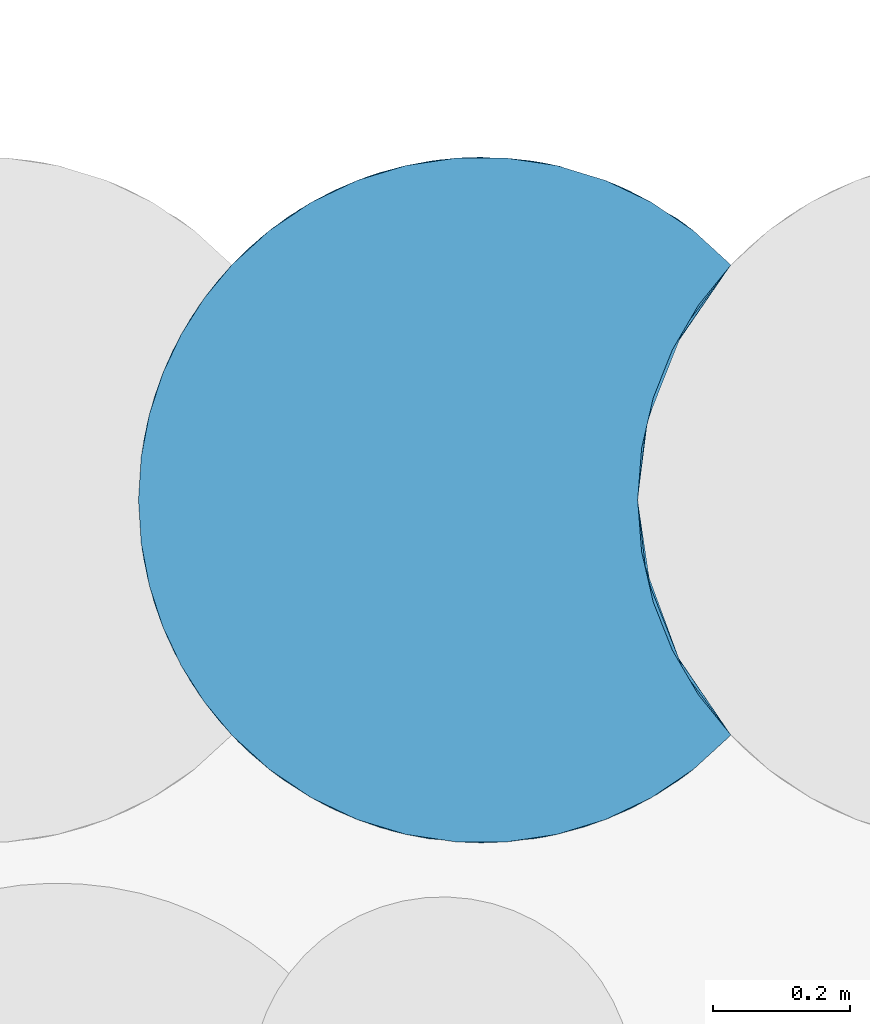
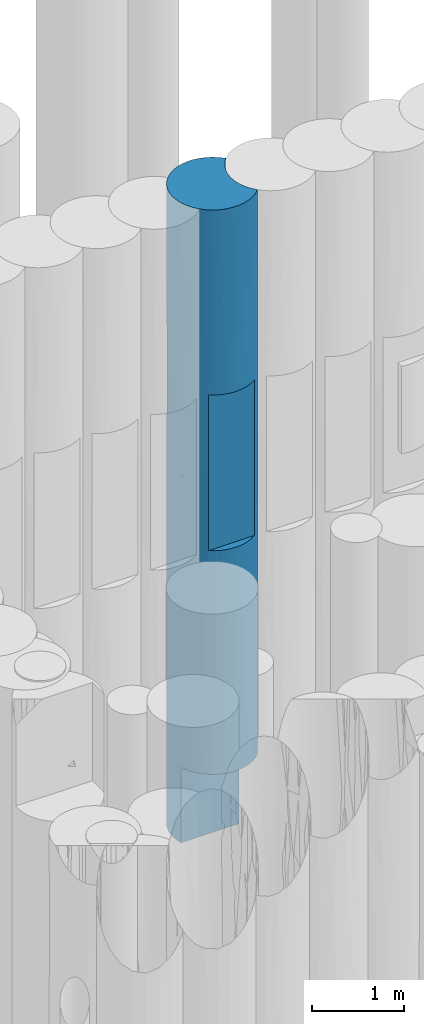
# One storey, part 63 of 104: 1 pile.
"""IFC2X3 building model written with IfcOpenShell, lengths in millimetres."""

from ifc_helpers import new_model, entity, si_unit, converted_unit, derived_unit, direction, frame, origin, place, context, subcontext, project, spatial, faceted_brep, source, transform, mapped, material, element, save


model = new_model("IFC2X3")

# Units and contexts
model_context = context("Model", 3, precision=0.01, world=origin(), true_north=direction((6.12303176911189e-17, 1.0)))
body_context = subcontext(model_context, "Body", "Model", "MODEL_VIEW")
ifc_project = project(units=[si_unit("LENGTHUNIT", "METRE", prefix="MILLI"), si_unit("AREAUNIT", "SQUARE_METRE", prefix="MILLI"), si_unit("VOLUMEUNIT", "CUBIC_METRE"), converted_unit("PLANEANGLEUNIT", "DEGREE", entity("IfcRatioMeasure", 0.0174532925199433), si_unit("PLANEANGLEUNIT", "RADIAN"), dimensions=[0, 0, 0, 0, 0, 0, 0]), si_unit("MASSUNIT", "GRAM", prefix="KILO"), derived_unit("MASSDENSITYUNIT", [(si_unit("MASSUNIT", "GRAM", prefix="KILO"), 1), (si_unit("LENGTHUNIT", "METRE"), -3)]), derived_unit("MOMENTOFINERTIAUNIT", [(si_unit("LENGTHUNIT", "METRE"), 4)]), si_unit("TIMEUNIT", "SECOND"), si_unit("FREQUENCYUNIT", "HERTZ"), si_unit("THERMODYNAMICTEMPERATUREUNIT", "DEGREE_CELSIUS"), derived_unit("THERMALTRANSMITTANCEUNIT", [(si_unit("MASSUNIT", "GRAM", prefix="KILO"), 1), (si_unit("THERMODYNAMICTEMPERATUREUNIT", "KELVIN"), -1), (si_unit("TIMEUNIT", "SECOND"), -3)]), derived_unit("VOLUMETRICFLOWRATEUNIT", [(si_unit("LENGTHUNIT", "METRE"), 3), (si_unit("TIMEUNIT", "SECOND"), -1)]), si_unit("ELECTRICCURRENTUNIT", "AMPERE"), si_unit("ELECTRICVOLTAGEUNIT", "VOLT"), si_unit("POWERUNIT", "WATT"), si_unit("FORCEUNIT", "NEWTON", prefix="KILO"), si_unit("ILLUMINANCEUNIT", "LUX"), si_unit("LUMINOUSFLUXUNIT", "LUMEN"), si_unit("LUMINOUSINTENSITYUNIT", "CANDELA"), derived_unit("USERDEFINED", [(si_unit("MASSUNIT", "GRAM", prefix="KILO"), -1), (si_unit("LENGTHUNIT", "METRE"), -2), (si_unit("TIMEUNIT", "SECOND"), 3), (si_unit("LUMINOUSFLUXUNIT", "LUMEN"), 1)]), derived_unit("LINEARVELOCITYUNIT", [(si_unit("LENGTHUNIT", "METRE"), 1), (si_unit("TIMEUNIT", "SECOND"), -1)]), si_unit("PRESSUREUNIT", "PASCAL"), derived_unit("USERDEFINED", [(si_unit("LENGTHUNIT", "METRE"), -2), (si_unit("MASSUNIT", "GRAM", prefix="KILO"), 1), (si_unit("TIMEUNIT", "SECOND"), -2)]), derived_unit("LINEARFORCEUNIT", [(si_unit("MASSUNIT", "GRAM", prefix="KILO"), 1), (si_unit("LENGTHUNIT", "METRE"), 1), (si_unit("TIMEUNIT", "SECOND"), -2), (si_unit("LENGTHUNIT", "METRE"), -1)]), derived_unit("PLANARFORCEUNIT", [(si_unit("MASSUNIT", "GRAM", prefix="KILO"), 1), (si_unit("LENGTHUNIT", "METRE"), 1), (si_unit("TIMEUNIT", "SECOND"), -2), (si_unit("LENGTHUNIT", "METRE"), -2)])], contexts=[model_context])

# Site, building, storey
site_placement = place(None, origin())
site = spatial("IfcSite", under=ifc_project, at=site_placement, Name="Theater aan de Parade", CompositionType="ELEMENT")
building_placement = place(site_placement, origin())
building = spatial("IfcBuilding", under=site, at=building_placement, Name="Theater aan de Parade", CompositionType="ELEMENT")
storey_placement = place(building_placement, frame((0.0, 0.0, -5520.0)))
storey = spatial("IfcBuildingStorey", under=building, at=storey_placement, Name="-2 kelder", CompositionType="ELEMENT", Elevation=-5520.0)

# Pile
ifc_material = material(Name="00_PBT_MAT_grout")
shared_shape = source(origin(), body_context, "Body", "Brep", [
    faceted_brep([(464.560582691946, 1000.22181762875, 0.0), (538.616668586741, 1000.22280478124, 0.0), (611.860911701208, 989.28522369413, 0.0), (682.686734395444, 967.648790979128, 0.0), (749.540520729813, 935.787802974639, 0.0), (810.955686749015, 894.400737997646, 0.0), (865.59527223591, 844.38383680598, 0.0), (818.150067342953, 785.695330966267, 0.0), (780.078223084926, 720.53458465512, 0.0), (752.247075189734, 650.386060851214, 0.0), (735.290660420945, 576.847851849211, 0.0), (729.595272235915, 501.595272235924, 0.0), (734.989632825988, 428.347327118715, 0.0), (751.055970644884, 356.681032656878, 0.0), (23.0559706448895, 356.681032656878, 0.0), (6.98989759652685, 428.345539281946, 0.0), (1.5952722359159, 501.595272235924, 0.0), (5.55623942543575, 564.406719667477, 0.0), (17.3678310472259, 626.189755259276, 0.0), (36.8430214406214, 686.00065551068, 0.0), (63.6725852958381, 742.891190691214, 0.0), (97.4346759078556, 795.966147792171, 0.0), (137.595794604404, 844.383899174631, 0.0), (192.227350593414, 894.394825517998, 0.0), (253.640398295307, 935.782306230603, 0.0), (320.492432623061, 967.644369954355, 0.0), (391.316996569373, 989.282366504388, 0.0), (865.59527223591, 844.38383680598, 1561.53755047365), (789.401321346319, 910.456713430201, 1491.00548248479), (799.657477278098, 903.041310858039, 2504.88210618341), (26.1639417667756, 656.401764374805, 1423.71039154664), (50.5548382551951, 717.378790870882, 815.522482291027), (716.704326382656, 952.957759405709, 974.74374939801), (575.441567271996, 996.111929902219, 1365.35911550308), (789.401320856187, 910.456713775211, 6978.9945110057), (810.955686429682, 894.40073824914, 8470.0), (865.59527223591, 844.38383680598, 6908.46244952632), (790.879670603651, 909.412065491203, 5813.01191791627), (865.59527223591, 844.38383680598, 5571.72989618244), (865.595272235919, 844.38383680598, 5346.92489905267), (538.616668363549, 1000.22280479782, 8470.0), (611.860911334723, 989.285223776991, 8470.0), (575.441567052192, 996.111929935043, 7150.26699538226), (36.7297114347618, 685.714826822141, 2307.62641859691), (64.0996250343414, 743.664598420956, 1628.37591838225), (222.166559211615, 916.227150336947, 956.748364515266), (355.503556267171, 979.776420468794, 1427.1685869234), (501.588606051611, 1001.59527219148, 2596.73325583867), (463.496981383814, 1000.14167953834, 1072.24580175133), (865.595272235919, 844.38383680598, 8470.0), (222.16655893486, 916.227150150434, 1972.30012717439), (217.544033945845, 913.074183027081, 3221.63866937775), (333.161300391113, 972.371224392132, 2861.22474137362), (286.475705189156, 952.952749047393, 7480.63704182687), (192.227350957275, 894.394825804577, 8470.0), (253.640398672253, 935.782306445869, 8470.0), (100.736484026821, 800.44679375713, 6793.03274327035), (163.989554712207, 870.407391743, 7127.47212773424), (196.918801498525, 898.044825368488, 6218.94986965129), (785.426204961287, 913.226176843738, 4790.96227754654), (79.7575221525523, 770.022008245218, 7621.93766369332), (63.6725852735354, 742.89119065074, 8470.0), (97.4346759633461, 795.966147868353, 8470.0), (692.579720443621, 963.682861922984, 4235.0), (794.511313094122, 906.811502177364, 3679.03770634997), (116.757578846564, 820.812987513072, 1364.08942331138), (716.704325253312, 952.957759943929, 6462.73277506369), (716.704325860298, 952.957759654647, 7495.25624707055), (716.704325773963, 952.957759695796, 2007.26721703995), (36.8430215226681, 686.000655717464, 8470.0), (464.560582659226, 1000.22181762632, 8470.0), (682.686733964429, 967.648791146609, 8470.0), (749.540520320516, 935.787803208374, 8470.0), (1.5952722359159, 501.595272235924, 1058.74569867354), (1.59527223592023, 501.595272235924, 1561.53750746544), (286.475704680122, 952.952748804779, 4235.0), (286.475704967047, 952.952748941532, 6434.30301971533), (236.846141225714, 925.750783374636, 5334.65151001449), (13.5254225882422, 610.167008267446, 7372.75274235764), (17.3678311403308, 626.189755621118, 8470.0), (150.377453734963, 857.468907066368, 2562.89631213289), (79.7181549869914, 769.960131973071, 2632.86902156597), (49.3623188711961, 714.868233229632, 6938.44019104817), (712.525517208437, 954.925650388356, 3129.7229792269), (501.588606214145, 1001.59527219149, 5873.2667373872), (569.755285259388, 996.927698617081, 4755.12996065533), (476.322275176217, 1000.95613936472, 5007.14730889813), (391.31699672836, 989.282366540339, 8470.0), (427.735977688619, 996.109988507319, 7104.64110728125), (9.23358182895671, 588.658271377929, 2342.30656064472), (116.757578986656, 820.812987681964, 5893.90174013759), (33.0262183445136, 676.074616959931, 5347.10350774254), (137.605579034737, 844.394781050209, 8470.0), (438.381630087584, 997.583211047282, 3963.78240309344), (320.492432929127, 967.644370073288, 8470.0), (43.0784257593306, 701.000140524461, 4473.88274990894), (11.2142039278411, 599.19859105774, 4667.6580334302), (1.5952722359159, 501.595272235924, 8470.0), (5.5562394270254, 564.406719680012, 8470.0), (9.51542927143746, 590.237407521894, 5495.65544289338), (116.185815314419, 820.122430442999, 3373.18426703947), (182.118134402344, 886.217630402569, 4288.45203817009), (591.824887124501, 993.386504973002, 3489.10403538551), (18.4305593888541, 630.249305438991, 6406.00282362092), (1.5952722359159, 501.595272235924, 2117.50286755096), (1.5952722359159, 501.595272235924, 3123.07501493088), (616.099631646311, 988.30745790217, 2440.5331714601), (386.192771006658, 988.095285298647, 6175.64873710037), (381.51979902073, 986.963051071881, 5169.51578005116), (613.759023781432, 988.852178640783, 6106.01087867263), (692.700363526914, 963.6329807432, 5361.9474727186), (75.4806634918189, 763.179561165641, 5112.43896971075), (135.725798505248, 842.387772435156, 5005.62909266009), (62.9697281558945, 741.611171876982, 3455.7117920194), (97.3058699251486, 795.789220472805, 4263.74923889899), (26.3526093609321, 656.979992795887, 3676.2932543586), (1.5952722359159, 501.595272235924, 3176.26003642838), (1.5952722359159, 501.595272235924, 4234.99353122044), (865.595272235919, 844.38383680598, 3123.07579226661), (865.595272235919, 844.38383680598, 2898.26629172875), (865.595272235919, 844.38383680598, 4235.0006913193), (1.5952722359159, 501.595272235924, 5346.92498506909), (1.5952722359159, 501.595272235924, 5571.74329494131), (1.5952722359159, 501.595272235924, 6908.46249253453), (9.64635078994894, 412.229402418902, 1740.22189428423), (142.565506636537, 153.604428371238, 5505.0), (213.720794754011, 92.7820077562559, 4990.0), (213.720794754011, 92.7820077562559, 6020.0), (105.373424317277, 196.6227370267, 4545.3992964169), (23.0559706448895, 356.681032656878, 1000.0), (118.439637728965, 180.360529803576, 2386.19848820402), (32.2090199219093, 329.326452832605, 2204.61529178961), (68.8651327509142, 251.106497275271, 1000.0), (42.9242829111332, 302.545219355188, 1000.0), (789.469749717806, 92.7820077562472, 3960.0), (865.59527223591, 158.806707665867, 2867.49999999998), (865.59527223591, 158.806707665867, 3648.28895539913), (865.595272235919, 158.806707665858, 3801.24999999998), (865.595272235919, 158.806707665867, 4735.0), (865.595272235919, 158.806707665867, 5668.74999999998), (865.59527223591, 158.806707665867, 5821.74150431), (865.595272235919, 158.806707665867, 6602.49999999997), (789.469749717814, 92.7820077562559, 6020.0), (789.469749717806, 92.7820077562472, 4990.0), (8.81751859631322, 416.918914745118, 2646.87500001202), (286.466151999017, 50.2423486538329, 2461.24897887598), (193.922353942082, 107.466644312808, 2892.94714577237), (210.051202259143, 95.3908221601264, 1944.41924411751), (163.989554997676, 132.783152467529, 7198.38299068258), (79.7181554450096, 233.230411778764, 6604.44114999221), (148.072190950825, 148.011574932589, 6362.2552721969), (31.1680313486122, 332.189808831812, 6056.32490962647), (75.6904967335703, 239.66947701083, 5519.9956530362), (253.629698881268, 67.4143486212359, 1000.0), (320.484188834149, 35.5493780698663, 1000.0), (55.1532507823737, 276.451936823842, 3318.42122771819), (757.302459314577, 71.9281516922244, 3141.67756733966), (789.630291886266, 92.8951040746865, 2324.13442625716), (391.312227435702, 13.9092564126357, 1000.0), (370.182009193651, 19.1737197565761, 1947.89605695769), (279.558542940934, 53.6000815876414, 3960.0), (391.331294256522, 13.9049451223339, 2895.75417679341), (100.558387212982, 202.982786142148, 1000.0), (137.595272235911, 158.806707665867, 1000.0), (464.559880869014, 2.96877897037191, 1000.0), (501.589988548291, 1.59527226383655, 2460.40757830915), (29.932648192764, 335.660438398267, 4903.36557309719), (121.469006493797, 176.781445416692, 3478.13394910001), (26.1639420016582, 346.788779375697, 7201.0302868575), (5.5562394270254, 438.783824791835, 8470.0), (79.7181554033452, 233.230411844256, 7559.63491729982), (63.6725852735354, 260.299353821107, 8470.0), (36.8430215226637, 317.1898887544, 8470.0), (810.967462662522, 108.799081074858, 1000.0), (865.59527223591, 158.806707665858, 1000.0), (865.59527223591, 158.806707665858, 1780.76885310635), (17.3678311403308, 377.000788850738, 8470.0), (137.605579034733, 158.795763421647, 8470.0), (865.595272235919, 158.806707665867, 7689.2311468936), (865.595272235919, 158.806707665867, 8470.0), (810.955686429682, 108.789806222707, 8470.0), (253.008900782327, 67.7694823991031, 7429.16293872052), (279.558542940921, 53.6000815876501, 6020.0), (749.552165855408, 67.40939164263, 1000.0), (192.227350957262, 108.795718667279, 8470.0), (192.215508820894, 108.80504579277, 1000.0), (355.503557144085, 23.4141237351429, 7268.21560542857), (14.4149384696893, 389.099395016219, 3705.62500005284), (320.492432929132, 35.5461743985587, 8470.0), (391.316996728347, 13.9081779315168, 8470.0), (350.609564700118, 24.9367822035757, 6020.0), (501.595272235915, 1.59527223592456, 3960.0), (425.205629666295, 7.4651046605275, 3960.0), (538.620125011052, 2.96799633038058, 1000.0), (611.86810266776, 13.9069466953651, 1000.0), (595.054059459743, 10.4074720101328, 1977.18955440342), (682.696772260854, 35.5456539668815, 1000.0), (688.656307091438, 37.9055384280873, 2500.38408566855), (97.4346759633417, 207.224396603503, 8470.0), (682.68673396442, 35.5417533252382, 8470.0), (611.860911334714, 13.9053206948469, 8470.0), (611.870435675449, 13.9074742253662, 7434.83465826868), (595.68895776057, 10.5287000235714, 2967.02304747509), (577.984914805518, 7.4651046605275, 3960.0), (749.540520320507, 67.4027412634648, 8470.0), (716.704326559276, 50.2327851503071, 7267.64689878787), (803.386835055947, 102.945234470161, 7145.86557351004), (577.984914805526, 7.4651046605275, 6020.0), (501.58860727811, 1.5952722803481, 7268.66818084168), (501.595272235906, 1.59527223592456, 6020.0), (723.632001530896, 53.6000815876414, 6020.0), (865.59527223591, 158.806707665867, 2561.54745108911), (652.580979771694, 24.9367822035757, 3960.0), (723.632001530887, 53.6000815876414, 3960.0), (213.720794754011, 92.7820077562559, 3960.0), (253.640398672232, 67.4082380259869, 8470.0), (425.20562966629, 7.4651046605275, 6020.0), (464.560582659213, 2.96872684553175, 8470.0), (652.580979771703, 24.9367822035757, 6020.0), (538.61666836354, 2.96773967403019, 8470.0), (865.59527223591, 158.806707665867, 6908.48300862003), (350.609564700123, 24.9367822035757, 3960.0), (818.150067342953, 217.495213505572, 8470.0), (780.078223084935, 282.655959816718, 8470.0), (752.247075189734, 352.804483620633, 8470.0), (735.290660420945, 426.342692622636, 8470.0), (729.595272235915, 501.595272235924, 8470.0), (735.290660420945, 576.847851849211, 8470.0), (752.247075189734, 650.386060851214, 8470.0), (780.078223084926, 720.53458465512, 8470.0), (818.150067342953, 785.695330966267, 8470.0), (742.379444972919, 613.937328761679, 959.062888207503), (738.151011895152, 593.695972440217, 6638.44327873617), (742.379444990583, 613.937328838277, 7510.93711044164), (729.595272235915, 501.595272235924, 6908.4597613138), (808.6817168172, 771.468907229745, 6638.44327726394), (781.985001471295, 724.40695394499, 5169.28730842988), (797.88300515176, 753.834282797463, 959.062888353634), (764.837270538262, 685.986160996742, 1706.36651512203), (797.883005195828, 753.834282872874, 7510.93711014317), (729.595272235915, 501.595272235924, 1561.54023868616), (729.595272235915, 501.595272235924, 1058.75298998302), (808.681716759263, 771.468907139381, 1831.55672113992), (778.799150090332, 717.888721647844, 2630.65322090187), (766.296890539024, 689.62348691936, 3566.63442778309), (739.967026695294, 602.90756748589, 2500.19182196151), (729.595272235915, 501.595272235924, 3123.08047737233), (729.595272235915, 501.595272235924, 2117.50597996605), (764.837270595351, 685.986161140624, 6763.63348211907), (798.309538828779, 754.56289103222, 4260.62631723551), (810.907944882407, 774.909966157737, 3324.34692372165), (745.175048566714, 625.438103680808, 5612.66192558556), (744.930852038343, 624.478956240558, 4544.29323307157), (738.502483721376, 595.552033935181, 3413.30504808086), (729.595272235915, 501.595272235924, 4235.01242423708), (729.595272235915, 501.595272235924, 5571.72573206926), (729.595272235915, 501.595272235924, 5346.93194686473), (729.595272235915, 501.595272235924, 3176.24701001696), (737.652631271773, 412.194835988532, 1740.61215192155), (796.863622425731, 251.109106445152, 1977.49082641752), (808.103941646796, 232.6249053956, 2870.3140688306), (817.383474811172, 218.608639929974, 1000.0), (751.055970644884, 356.681032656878, 1000.0), (797.883005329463, 249.356261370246, 7510.9371107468), (762.458274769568, 323.317327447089, 4903.36557316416), (741.179889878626, 394.588663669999, 5988.20523574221), (778.685121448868, 285.53964070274, 5822.23176538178), (742.379445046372, 389.253215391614, 7510.9371105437), (764.837270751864, 317.204382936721, 6763.63348277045), (808.681717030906, 231.721636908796, 6638.44327929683), (736.645152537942, 417.928196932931, 2646.87500001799), (763.601591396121, 320.349887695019, 2739.7907128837), (778.90094510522, 285.089790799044, 1000.0), (736.819640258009, 416.906568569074, 5098.32805872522), (739.996017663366, 400.142968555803, 3705.62500000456), (776.673795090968, 289.788436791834, 3825.90126919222), (807.285378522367, 233.91196369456, 5061.9220930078)], [[[0, 1, 2, 3, 4, 5, 6, 7, 8, 9, 10, 11, 12, 13, 14, 15, 16, 17, 18, 19, 20, 21, 22, 23, 24, 25, 26]], [[27, 28, 29]], [[18, 30, 31]], [[4, 3, 32]], [[32, 2, 33]], [[34, 35, 36]], [[37, 36, 38, 39]], [[40, 41, 42]], [[30, 43, 44]], [[45, 46, 25]], [[47, 33, 48]], [[6, 5, 27]], [[35, 49, 36]], [[1, 48, 33]], [[26, 46, 48]], [[50, 51, 52]], [[53, 54, 55]], [[56, 57, 58]], [[39, 59, 37]], [[28, 5, 32]], [[60, 61, 62]], [[63, 59, 64]], [[25, 46, 26]], [[45, 22, 65]], [[24, 23, 45]], [[66, 67, 34]], [[28, 32, 68]], [[25, 24, 45]], [[69, 61, 60]], [[70, 40, 42]], [[67, 71, 72]], [[0, 48, 1]], [[42, 41, 67]], [[17, 16, 73, 74]], [[52, 51, 75]], [[58, 76, 77]], [[31, 21, 20]], [[69, 78, 79]], [[1, 33, 2]], [[65, 50, 45]], [[31, 19, 18]], [[80, 65, 81]], [[78, 69, 82]], [[64, 29, 83]], [[17, 74, 30]], [[84, 85, 86]], [[53, 87, 88]], [[30, 74, 89]], [[30, 18, 17]], [[42, 84, 88]], [[82, 90, 91]], [[57, 60, 92]], [[4, 32, 5]], [[88, 87, 70]], [[52, 93, 47]], [[94, 53, 55]], [[95, 96, 91]], [[42, 88, 70]], [[97, 98, 78]], [[54, 53, 57]], [[92, 54, 57]], [[91, 96, 99]], [[51, 100, 101]], [[102, 63, 83]], [[57, 56, 60]], [[44, 31, 30]], [[99, 103, 91]], [[78, 98, 79]], [[50, 52, 46]], [[65, 22, 21]], [[89, 74, 104, 105]], [[75, 101, 77]], [[106, 33, 47]], [[33, 68, 32]], [[42, 67, 66]], [[107, 84, 108]], [[88, 76, 53]], [[67, 41, 71]], [[109, 42, 66]], [[53, 94, 87]], [[57, 53, 76]], [[32, 3, 2]], [[45, 23, 22]], [[46, 45, 50]], [[67, 72, 35]], [[106, 83, 68]], [[110, 66, 37]], [[111, 90, 112]], [[95, 91, 111]], [[51, 101, 75]], [[100, 113, 114]], [[93, 52, 75]], [[47, 46, 52]], [[108, 93, 75]], [[102, 85, 63]], [[89, 43, 30]], [[115, 105, 116, 117]], [[29, 28, 68]], [[5, 28, 27]], [[83, 29, 68]], [[29, 118, 119, 27]], [[102, 106, 47]], [[59, 39, 120]], [[47, 93, 102]], [[108, 86, 93]], [[93, 85, 102]], [[110, 109, 66]], [[59, 120, 64]], [[118, 64, 120]], [[59, 63, 110]], [[63, 85, 110]], [[109, 85, 84]], [[85, 109, 110]], [[42, 109, 84]], [[29, 64, 118]], [[64, 83, 63]], [[110, 37, 59]], [[37, 66, 34]], [[35, 34, 67]], [[37, 34, 36]], [[77, 108, 75]], [[88, 107, 76]], [[83, 106, 102]], [[33, 106, 68]], [[80, 51, 50]], [[80, 100, 51]], [[114, 112, 101]], [[57, 76, 58]], [[77, 101, 112]], [[108, 77, 76]], [[65, 80, 50]], [[100, 80, 81]], [[113, 100, 81]], [[101, 100, 114]], [[43, 113, 81]], [[113, 115, 95]], [[111, 112, 114]], [[112, 90, 58]], [[114, 113, 95]], [[90, 111, 91]], [[114, 95, 111]], [[117, 96, 115]], [[99, 96, 121]], [[115, 96, 95]], [[121, 96, 117]], [[99, 121, 122, 123]], [[123, 78, 103]], [[112, 58, 77]], [[56, 58, 90]], [[103, 78, 82]], [[78, 123, 97]], [[91, 103, 82]], [[123, 103, 99]], [[105, 115, 89]], [[115, 113, 43]], [[115, 43, 89]], [[44, 81, 65]], [[81, 44, 43]], [[65, 21, 31]], [[65, 31, 44]], [[19, 31, 20]], [[90, 82, 56]], [[60, 56, 82]], [[60, 82, 69]], [[60, 62, 92]], [[26, 48, 0]], [[47, 48, 46]], [[93, 86, 85]], [[108, 84, 86]], [[84, 107, 88]], [[108, 76, 107]], [[124, 104, 74, 73]], [[125, 126, 127]], [[126, 125, 128]], [[129, 15, 14]], [[130, 131, 132]], [[129, 133, 131]], [[134, 135, 136, 137, 138, 139, 140, 141, 142, 143]], [[144, 116, 105, 104]], [[132, 131, 133]], [[129, 124, 73]], [[145, 146, 147]], [[148, 149, 150]], [[149, 151, 152]], [[145, 153, 154]], [[131, 130, 155]], [[135, 156, 157]], [[154, 158, 159]], [[153, 145, 147]], [[160, 145, 161]], [[130, 162, 163]], [[164, 165, 159]], [[122, 166, 151]], [[160, 146, 145]], [[130, 167, 155]], [[123, 168, 169]], [[148, 170, 149]], [[170, 171, 172]], [[173, 174, 175]], [[176, 168, 172]], [[123, 122, 151]], [[170, 172, 168]], [[170, 148, 177]], [[178, 179, 180]], [[181, 127, 182]], [[183, 173, 157]], [[128, 166, 155]], [[184, 177, 148]], [[147, 163, 185]], [[181, 182, 186]], [[187, 166, 117]], [[181, 184, 148]], [[188, 186, 189]], [[186, 188, 181]], [[186, 182, 190]], [[187, 116, 144]], [[131, 144, 124]], [[168, 149, 170]], [[169, 97, 123]], [[168, 151, 149]], [[161, 191, 192]], [[150, 125, 127]], [[165, 164, 193]], [[166, 122, 121, 117]], [[193, 194, 195]], [[195, 196, 197]], [[170, 177, 198]], [[165, 161, 159]], [[199, 200, 201]], [[191, 161, 165]], [[191, 165, 202]], [[127, 148, 150]], [[191, 202, 203]], [[187, 117, 116]], [[204, 205, 206]], [[207, 208, 209]], [[206, 210, 142]], [[157, 175, 211, 135]], [[197, 156, 212]], [[202, 195, 197]], [[130, 146, 167]], [[173, 175, 157]], [[213, 156, 134]], [[146, 160, 214]], [[180, 204, 206]], [[188, 215, 181]], [[183, 197, 196]], [[130, 132, 162]], [[216, 186, 190]], [[208, 217, 189]], [[218, 205, 201]], [[186, 216, 208]], [[156, 135, 134]], [[208, 189, 186]], [[212, 156, 213]], [[217, 208, 219]], [[219, 208, 201]], [[183, 157, 197]], [[218, 201, 207]], [[208, 216, 209]], [[212, 203, 202]], [[169, 168, 176]], [[144, 155, 187]], [[210, 205, 218]], [[128, 214, 126]], [[199, 205, 204]], [[151, 168, 123]], [[206, 142, 141]], [[206, 141, 220, 178]], [[152, 125, 150]], [[219, 201, 200]], [[198, 171, 170]], [[197, 157, 156]], [[152, 166, 128]], [[161, 221, 160]], [[166, 152, 151]], [[166, 187, 155]], [[128, 125, 152]], [[124, 144, 104]], [[144, 131, 155]], [[15, 129, 73]], [[131, 124, 129]], [[180, 206, 178]], [[16, 15, 73]], [[206, 205, 210]], [[152, 150, 149]], [[167, 214, 128]], [[130, 163, 147]], [[214, 167, 146]], [[155, 167, 128]], [[130, 147, 146]], [[153, 147, 185]], [[221, 161, 192]], [[159, 161, 145]], [[154, 159, 145]], [[159, 158, 164]], [[195, 202, 165]], [[212, 202, 197]], [[193, 195, 165]], [[195, 194, 196]], [[184, 181, 215]], [[181, 148, 127]], [[207, 201, 208]], [[199, 201, 205]], [[72, 71, 41, 40, 70, 87, 94, 55, 54, 92, 62, 61, 69, 79, 98, 97, 169, 176, 172, 171, 198, 177, 184, 215, 188, 189, 217, 219, 200, 199, 204, 180, 179, 222, 223, 224, 225, 226, 227, 228, 229, 230, 49, 35]], [[10, 9, 231]], [[232, 233, 234]], [[38, 235, 236]], [[231, 237, 238]], [[6, 237, 7]], [[231, 9, 237]], [[239, 36, 49]], [[27, 237, 6]], [[231, 240, 241, 11]], [[234, 233, 226]], [[227, 226, 233]], [[238, 237, 242]], [[243, 244, 245]], [[245, 246, 247, 240]], [[230, 229, 239]], [[233, 248, 239]], [[243, 242, 119]], [[249, 244, 250]], [[233, 239, 229, 228]], [[228, 227, 233]], [[8, 7, 237]], [[251, 252, 236]], [[237, 9, 8]], [[10, 231, 11]], [[240, 231, 245]], [[248, 233, 232]], [[230, 239, 49]], [[36, 239, 235]], [[119, 250, 243]], [[242, 237, 27]], [[253, 245, 244]], [[252, 253, 244]], [[239, 248, 235]], [[238, 242, 243]], [[242, 27, 119]], [[238, 243, 245]], [[250, 244, 243]], [[231, 238, 245]], [[253, 246, 245]], [[249, 252, 244]], [[250, 119, 118, 120]], [[252, 254, 253]], [[249, 250, 120]], [[236, 248, 251]], [[232, 234, 255, 256]], [[249, 120, 39, 38]], [[235, 248, 236]], [[38, 36, 235]], [[38, 236, 249]], [[249, 236, 252]], [[232, 256, 251]], [[252, 251, 256]], [[232, 251, 248]], [[253, 254, 257, 246]], [[252, 256, 254]], [[258, 241, 240, 247]], [[211, 259, 260]], [[261, 259, 174]], [[13, 12, 262]], [[222, 179, 263]], [[258, 262, 241]], [[264, 265, 266]], [[267, 234, 226]], [[225, 224, 267]], [[268, 263, 269]], [[270, 271, 258]], [[261, 272, 259]], [[258, 271, 259]], [[223, 263, 267, 224]], [[259, 211, 175, 174]], [[263, 268, 267]], [[270, 247, 246, 257]], [[262, 259, 272]], [[260, 259, 271]], [[265, 264, 273]], [[254, 274, 257]], [[269, 263, 220]], [[223, 222, 263]], [[263, 179, 178, 220]], [[225, 267, 226]], [[234, 267, 265]], [[265, 255, 234]], [[271, 275, 260]], [[268, 266, 265]], [[275, 138, 137, 136]], [[275, 276, 138]], [[275, 136, 260]], [[275, 271, 274]], [[260, 136, 135, 211]], [[274, 273, 264]], [[270, 257, 274]], [[275, 274, 264]], [[247, 270, 258]], [[271, 270, 274]], [[241, 262, 12]], [[259, 262, 258]], [[268, 269, 266]], [[241, 12, 11]], [[266, 269, 140]], [[266, 140, 276]], [[269, 220, 141, 140]], [[276, 264, 266]], [[267, 268, 265]], [[273, 255, 265]], [[264, 276, 275]], [[276, 140, 139, 138]], [[273, 254, 256, 255]], [[254, 273, 274]], [[133, 129, 262, 272, 261, 174, 173, 183, 196, 194, 193, 164, 158, 154, 153, 185, 163, 162, 132]], [[129, 14, 13, 262]], [[209, 216, 190, 182, 127, 142, 210, 218, 207]], [[214, 134, 143, 142, 127, 126]], [[214, 160, 221, 192, 191, 203, 212, 213, 134]]]),
])
pile_placement = place(storey_placement, frame((38520.2628578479, 43807.2179922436, -3840.0)))
element("IfcPile", 1, at=pile_placement, inside=storey, material=ifc_material, Name="17_PBT_SFO_grondkering_rond:Ø1000 (grondkering)", ObjectType="17_PBT_SFO_grondkering_rond:Ø1000 (grondkering)", PredefinedType="NOTDEFINED", context=body_context, shape_type="MappedRepresentation", body=[
    mapped(shared_shape, transform((0.0, 0.0, 0.0), scale=1.0)),
])

save(model, "model.ifc")
